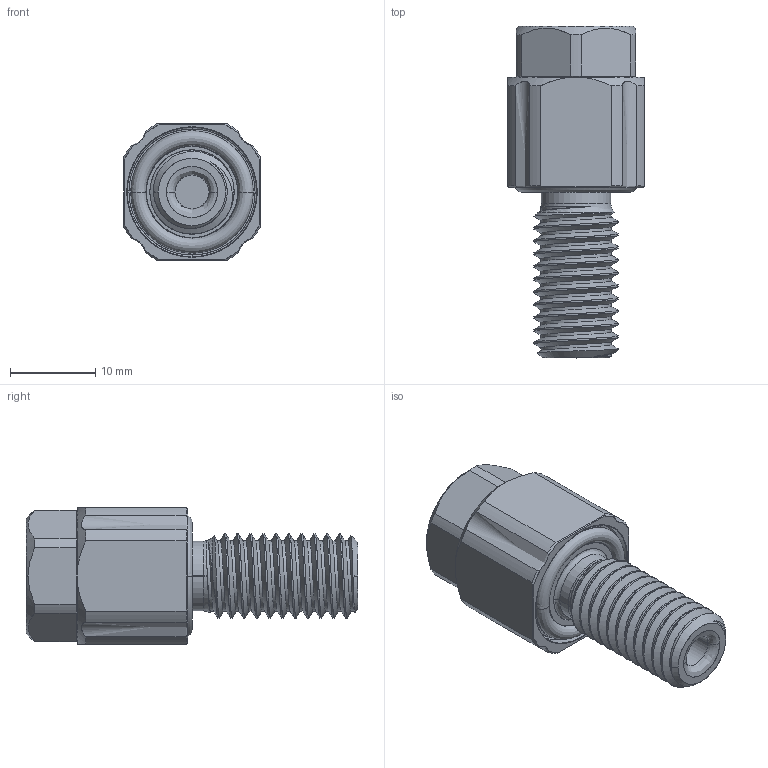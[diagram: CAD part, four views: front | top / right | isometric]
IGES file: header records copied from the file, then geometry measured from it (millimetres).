
Start section: SolidWorks IGES file using analytic representation for surfaces
Global section: file name: C:\Users\emill\Blue Robotics Dropbox\Eldin Miller-Stead\BR-Engineering\PROJECTS\WLP\MODELS\RELEASES\PUBLIC\WLP-M10-5.5MM-PUBLIC.igs; native system: SolidWorks 2020; preprocessor: SolidWorks 2020; author: emill; date: 210812.164301; units: foot
Bounding box: 16 x 39 x 16 mm (x, y, z)
Surface area: 3173.7 mm2 (no closed solid volume)
Topology: 0 solids, 0 shells, 126 faces, 1604 edges, 1604 vertices
Faces by surface type: revolution 78, bspline 48
